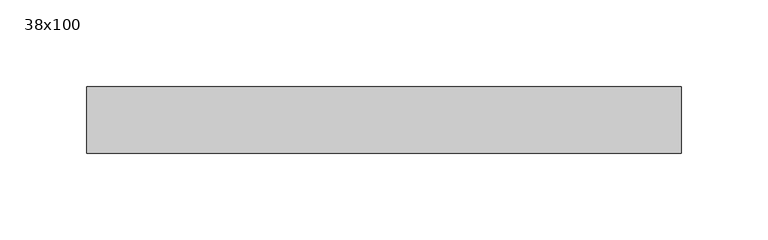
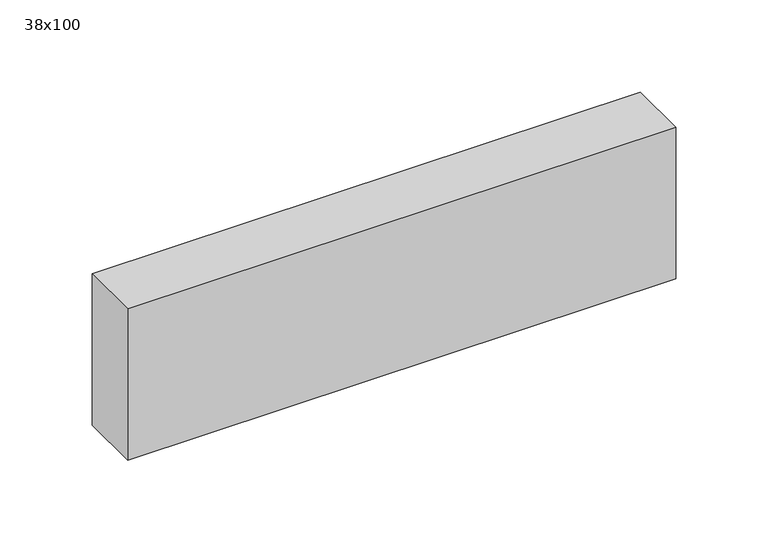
"""IFC4 building model written with IfcOpenShell, lengths in millimetres: beam geometry, Poutre - Bois de construction de dimensions courantes : 38x100."""

import ifcopenshell
import ifcopenshell.guid

model = None  # the IFC model being written
_history = None  # IfcOwnerHistory: only IFC2X3 demands one
_inside = {}  # id of a spatial element -> (the spatial element, [elements in it])
_under = {}  # id of a project, library or spatial element -> (it, [spatial elements below it])
_declared = {}  # id of a project -> (the project, [libraries it declares])
_typed = {}  # id of a type object -> (the type object, [elements of that type])
_made_of = {}  # id of a material, layer set ... -> (it, [elements and type objects made of it])


def new_model(schema):
    """Start an empty IFC model of exactly this schema.

    Asked for "IFC4X3", IfcOpenShell would pick the latest addendum, in which some entities
    have other attributes; the version numbers below select the first issue.
    IFC2X3 requires an IfcOwnerHistory on every rooted entity: one is made here for all.
    """
    global model, _history
    if schema == "IFC4X3":
        model = ifcopenshell.file(schema_version=(4, 3, 0, 0))
    else:
        model = ifcopenshell.file(schema=schema)
    _inside.clear()
    _under.clear()
    _declared.clear()
    _typed.clear()
    _made_of.clear()
    _history = None
    if model.schema == "IFC2X3":
        org = make("IfcOrganization", Name="unknown")
        user = make(
            "IfcPersonAndOrganization",
            ThePerson=make("IfcPerson", FamilyName="unknown"),
            TheOrganization=org,
        )
        app = make(
            "IfcApplication",
            ApplicationDeveloper=org,
            Version="unknown",
            ApplicationFullName="unknown",
            ApplicationIdentifier="unknown",
        )
        _history = make(
            "IfcOwnerHistory",
            OwningUser=user,
            OwningApplication=app,
            ChangeAction="ADDED",
            CreationDate=0,
        )
    return model


def make(cls, **values):
    """One entity of the class cls with the attributes given. An attribute that is None is left unset."""
    return model.create_entity(
        cls, **{name: value for name, value in values.items() if value is not None}
    )


def rooted(cls, **values):
    """An entity with a GlobalId (a new one), such as an element, a storey or a relation."""
    return make(cls, GlobalId=ifcopenshell.guid.new(), OwnerHistory=_history, **values)


def si_unit(unit_type, name, prefix=None):
    """IfcSIUnit, for example si_unit("LENGTHUNIT", "METRE", prefix="MILLI")."""
    return make("IfcSIUnit", UnitType=unit_type, Prefix=prefix, Name=name)


def assignment(units):
    """IfcUnitAssignment: the units of a project."""
    return None if units is None else make("IfcUnitAssignment", Units=units)


def point(xyz):
    """IfcCartesianPoint."""
    return None if xyz is None else make("IfcCartesianPoint", Coordinates=xyz)


def direction(xyz):
    """IfcDirection."""
    return None if xyz is None else make("IfcDirection", DirectionRatios=xyz)


def frame(location, z_axis=None, x_axis=None):
    """IfcAxis2Placement3D, a coordinate frame: its origin and axes. An axis left out is left unset."""
    return make(
        "IfcAxis2Placement3D",
        Location=point(location),
        Axis=direction(z_axis),
        RefDirection=direction(x_axis),
    )


def origin():
    """The frame at (0, 0, 0) with its axes left unset."""
    return frame((0.0, 0.0, 0.0))


def place(relative_to, where):
    """IfcLocalPlacement: puts the frame where relative to a parent placement (None: the world)."""
    return make(
        "IfcLocalPlacement", PlacementRelTo=relative_to, RelativePlacement=where
    )


def context(
    kind, dimensions, precision=None, world=None, true_north=None, identifier=None
):
    """IfcGeometricRepresentationContext, for example the 3D "Model" context."""
    return make(
        "IfcGeometricRepresentationContext",
        ContextIdentifier=identifier,
        ContextType=kind,
        CoordinateSpaceDimension=dimensions,
        Precision=precision,
        WorldCoordinateSystem=world,
        TrueNorth=true_north,
    )


def project(units=None, contexts=None):
    """IfcProject with its units and contexts."""
    return rooted(
        "IfcProject",
        Name="project",
        RepresentationContexts=contexts,
        UnitsInContext=assignment(units),
    )


def spatial(cls, under=None, at=None, **own):
    """A site, building, storey or space (cls), placed at a placement, below another one or the project."""
    s = rooted(cls, ObjectPlacement=at, **own)
    if under is not None:
        _under.setdefault(under.id(), (under, []))[1].append(s)
    return s


def polyline(points):
    """IfcPolyline through the points."""
    return make("IfcPolyline", Points=[point(p) for p in points])


def outline(outer, holes=None, kind="AREA"):
    """IfcArbitraryClosedProfileDef: a profile drawn as a closed curve; with holes, ...WithVoids."""
    if holes is None:
        return make("IfcArbitraryClosedProfileDef", ProfileType=kind, OuterCurve=outer)
    return make(
        "IfcArbitraryProfileDefWithVoids",
        ProfileType=kind,
        OuterCurve=outer,
        InnerCurves=holes,
    )


def extrude(swept, where, along, depth):
    """IfcExtrudedAreaSolid: the profile swept, set in the frame where, extruded along a direction by depth."""
    return make(
        "IfcExtrudedAreaSolid",
        SweptArea=swept,
        Position=where,
        ExtrudedDirection=direction(along),
        Depth=depth,
    )


def shape(context_of_items, identifier, shape_type, items):
    """IfcShapeRepresentation: the items that make up one representation, for example the "Body"."""
    return make(
        "IfcShapeRepresentation",
        ContextOfItems=context_of_items,
        RepresentationIdentifier=identifier,
        RepresentationType=shape_type,
        Items=items,
    )


def source(mapping_origin, context_of_items, identifier, shape_type, items):
    """IfcRepresentationMap: a shape defined once, which mapped items show again and again."""
    return make(
        "IfcRepresentationMap",
        MappingOrigin=mapping_origin,
        MappedRepresentation=shape(context_of_items, identifier, shape_type, items),
    )


def transform(
    local_origin,
    x_axis=None,
    y_axis=None,
    z_axis=None,
    scale=None,
    scale2=None,
    scale3=None,
    uniform=True,
):
    """IfcCartesianTransformationOperator3D, or its non-uniform kind. x_axis, y_axis, z_axis: its Axis1, 2, 3."""
    if uniform:
        return make(
            "IfcCartesianTransformationOperator3D",
            Axis1=direction(x_axis),
            Axis2=direction(y_axis),
            LocalOrigin=point(local_origin),
            Scale=scale,
            Axis3=direction(z_axis),
        )
    return make(
        "IfcCartesianTransformationOperator3DnonUniform",
        Axis1=direction(x_axis),
        Axis2=direction(y_axis),
        LocalOrigin=point(local_origin),
        Scale=scale,
        Axis3=direction(z_axis),
        Scale2=scale2,
        Scale3=scale3,
    )


def mapped(mapping_source, mapping_target):
    """IfcMappedItem: shows the shape of a source again, moved by a transform."""
    return make(
        "IfcMappedItem", MappingSource=mapping_source, MappingTarget=mapping_target
    )


def made_of(thing, what):
    """Note that an element or type object is made of a material, layer set ...; save() writes the relation."""
    if what is not None:
        _made_of.setdefault(what.id(), (what, []))[1].append(thing)
    return thing


def element(
    cls,
    number,
    at=None,
    inside=None,
    cuts=None,
    type_object=None,
    material=None,
    context=None,
    identifier="Body",
    shape_type=None,
    held_by="IfcProductDefinitionShape",
    body=None,
    shapes=None,
    **own,
):
    """One element of the class cls, such as IfcWall. Its Tag is "e" and its number.

    at: its placement. inside: the storey or other place that contains it. cuts: it is an
    opening in that element (IfcRelVoidsElement). A single representation is given by context,
    identifier, shape_type and body (its items); several are given by shapes. held_by: the class
    of the entity that holds the representations. save() writes the other relations.
    """
    e = rooted(cls, Tag="e%d" % number, ObjectPlacement=at, **own)
    if body is not None:
        shapes = [shape(context, identifier, shape_type, body)]
    if shapes is not None:
        e.Representation = make(held_by, Representations=shapes)
    if inside is not None:
        _inside.setdefault(inside.id(), (inside, []))[1].append(e)
    if cuts is not None:
        rooted(
            "IfcRelVoidsElement", RelatingBuildingElement=cuts, RelatedOpeningElement=e
        )
    if type_object is not None:
        _typed.setdefault(type_object.id(), (type_object, []))[1].append(e)
    return made_of(e, material)


def aggregate(whole, parts):
    """IfcRelAggregates: a whole, such as a stair, and the parts it consists of."""
    return rooted("IfcRelAggregates", RelatingObject=whole, RelatedObjects=parts)


def save(model, path):
    """Write the relations noted so far, then the file.

    IfcRelAggregates (storeys below a building ...), IfcRelContainedInSpatialStructure (elements
    in a storey), IfcRelDefinesByType, IfcRelAssociatesMaterial and IfcRelDeclares: one each for
    every whole, place, type object, material and project.
    """
    for whole, parts in _under.values():
        aggregate(whole, parts)
    for where, things in _inside.values():
        rooted(
            "IfcRelContainedInSpatialStructure",
            RelatedElements=things,
            RelatingStructure=where,
        )
    for kind, things in _typed.values():
        rooted("IfcRelDefinesByType", RelatedObjects=things, RelatingType=kind)
    for what, things in _made_of.values():
        rooted("IfcRelAssociatesMaterial", RelatedObjects=things, RelatingMaterial=what)
    for by, libraries in _declared.values():
        rooted("IfcRelDeclares", RelatingContext=by, RelatedDefinitions=libraries)
    model.write(path)


def beam_38x100_bda0628c(model_context):
    return source(origin(), model_context, "Body", "SweptSolid", [
        extrude(outline(polyline([(91.0, 19.05), (91.0, -19.05), (-251.0, -19.05), (-251.0, 19.05), (91.0, 19.05)])), frame((0.0, 0.0, -50.0), z_axis=(0.0, 0.0, 1.0), x_axis=(1.0, 0.0, 0.0)), (0.0, 0.0, 1.0), 100.0),
    ])


if __name__ == "__main__":
    model = new_model("IFC4")
    model_context = context("Model", 3, world=origin())
    ifc_project = project(units=[si_unit("LENGTHUNIT", "METRE", prefix="MILLI")], contexts=[model_context])
    site = spatial("IfcSite", under=ifc_project)
    building = spatial("IfcBuilding", under=site)
    placement = place(None, origin())
    beam_38x100_shape = beam_38x100_bda0628c(model_context)
    element("IfcBeam", 1, ObjectType="Poutre - Bois de construction de dimensions courantes : 38x100", at=placement, inside=building, context=model_context, shape_type="MappedRepresentation", body=[
        mapped(beam_38x100_shape, transform((0.0, 0.0, 0.0), x_axis=(1.0, 0.0, 0.0), y_axis=(0.0, 1.0, 0.0), z_axis=(0.0, 0.0, 1.0))),
    ])
    save(model, "model.ifc")
